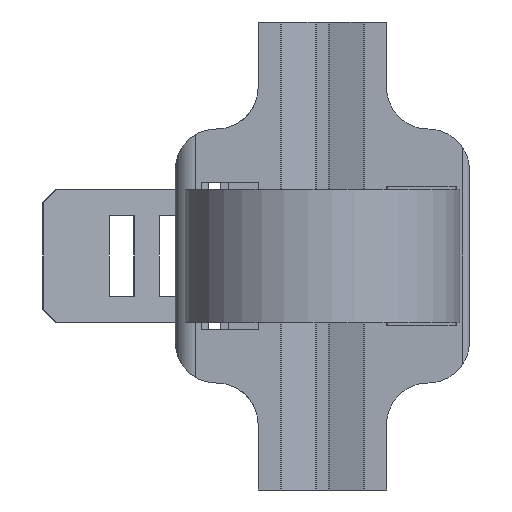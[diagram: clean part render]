
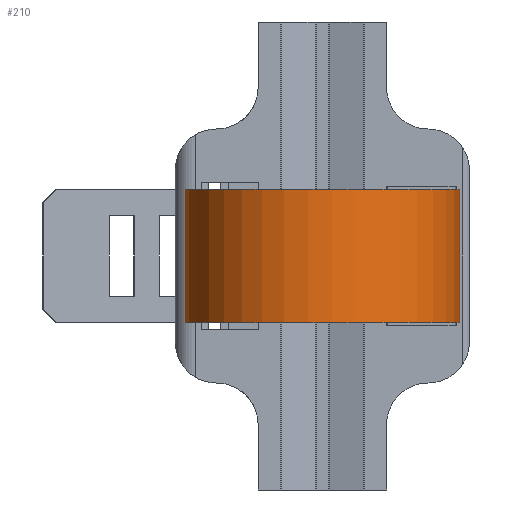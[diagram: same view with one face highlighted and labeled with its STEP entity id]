
A CAD part, front view. The second image highlights one B-rep face of the part: STEP entity #210.
In plain terms, the highlighted cylindrical face has radius 10.3 mm (diameter 20.6 mm), a partial arc.
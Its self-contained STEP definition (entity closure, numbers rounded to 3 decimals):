
#210 = ADVANCED_FACE( '', ( #527 ), #528, .T. );
#527 = FACE_OUTER_BOUND( '', #956, .T. );
#528 = CYLINDRICAL_SURFACE( '', #957, 10.3 );
#956 = EDGE_LOOP( '', ( #1534, #1535, #1536, #1537 ) );
#957 = AXIS2_PLACEMENT_3D( '', #1538, #1539, #1540 );
#1534 = ORIENTED_EDGE( '', *, *, #2728, .T. );
#1535 = ORIENTED_EDGE( '', *, *, #2729, .F. );
#1536 = ORIENTED_EDGE( '', *, *, #2730, .F. );
#1537 = ORIENTED_EDGE( '', *, *, #2654, .T. );
#1538 = CARTESIAN_POINT( '', ( 0., -9.15, 5. ) );
#1539 = DIRECTION( '', ( 0., 0., 1. ) );
#1540 = DIRECTION( '', ( -1., 0., 0. ) );
#2654 = EDGE_CURVE( '', #3222, #3220, #3223, .T. );
#2728 = EDGE_CURVE( '', #3220, #3350, #3351, .T. );
#2729 = EDGE_CURVE( '', #3352, #3350, #3353, .T. );
#2730 = EDGE_CURVE( '', #3222, #3352, #3354, .T. );
#3220 = VERTEX_POINT( '', #4031 );
#3222 = VERTEX_POINT( '', #4034 );
#3223 = LINE( '', #4035, #4036 );
#3350 = VERTEX_POINT( '', #4238 );
#3351 = CIRCLE( '', #4239, 10.3 );
#3352 = VERTEX_POINT( '', #4240 );
#3353 = LINE( '', #4241, #4242 );
#3354 = CIRCLE( '', #4243, 10.3 );
#4031 = CARTESIAN_POINT( '', ( -9.933, -6.424, -5. ) );
#4034 = CARTESIAN_POINT( '', ( -9.933, -6.424, 5. ) );
#4035 = CARTESIAN_POINT( '', ( -9.933, -6.424, 5. ) );
#4036 = VECTOR( '', #5080, 1000. );
#4238 = CARTESIAN_POINT( '', ( 10.284, -8.57, -5. ) );
#4239 = AXIS2_PLACEMENT_3D( '', #5162, #5163, #5164 );
#4240 = CARTESIAN_POINT( '', ( 10.284, -8.57, 5. ) );
#4241 = CARTESIAN_POINT( '', ( 10.284, -8.57, 5. ) );
#4242 = VECTOR( '', #5165, 1000. );
#4243 = AXIS2_PLACEMENT_3D( '', #5166, #5167, #5168 );
#5080 = DIRECTION( '', ( 0., 0., -1. ) );
#5162 = CARTESIAN_POINT( '', ( 0., -9.15, -5. ) );
#5163 = DIRECTION( '', ( 0., 0., 1. ) );
#5164 = DIRECTION( '', ( 1., 0., 0. ) );
#5165 = DIRECTION( '', ( 0., 0., -1. ) );
#5166 = CARTESIAN_POINT( '', ( 0., -9.15, 5. ) );
#5167 = DIRECTION( '', ( 0., 0., 1. ) );
#5168 = DIRECTION( '', ( 1., 0., 0. ) );
